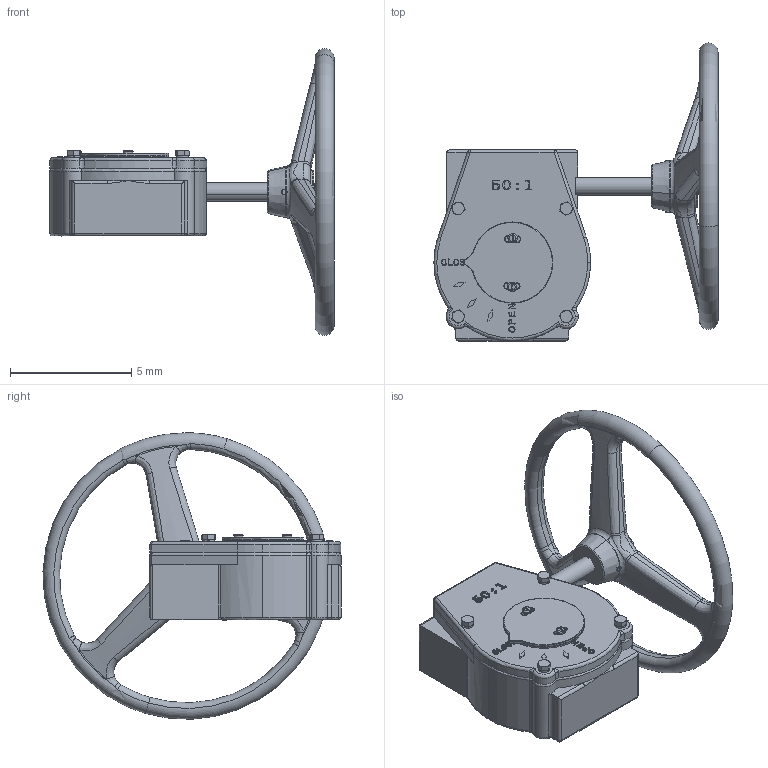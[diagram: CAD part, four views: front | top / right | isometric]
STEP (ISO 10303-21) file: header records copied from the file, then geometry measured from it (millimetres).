
FILE_DESCRIPTION(('Open CASCADE Model'),'2;1');
FILE_NAME('Open CASCADE Shape Model','2022-09-14T09:40:06',('Author'),( 'Open CASCADE'),'Open CASCADE STEP processor 7.3','Open CASCADE 7.3' ,'Unknown');
FILE_SCHEMA(('AUTOMOTIVE_DESIGN { 1 0 10303 214 1 1 1 1 }'));
Length unit declared in the file: millimetre
Products named in the file (17): Open CASCADE STEP translator 7.3 1; Open CASCADE STEP translator 7.3 1.1; Open CASCADE STEP translator 7.3 1.2; Open CASCADE STEP translator 7.3 1.3; Open CASCADE STEP translator 7.3 1.4; Open CASCADE STEP translator 7.3 1.5; Open CASCADE STEP translator 7.3 1.6; Open CASCADE STEP translator 7.3 1.7; Open CASCADE STEP translator 7.3 1.8; Open CASCADE STEP translator 7.3 1.9; Open CASCADE STEP translator 7.3 1.10; Open CASCADE STEP translator 7.3 1.11; Open CASCADE STEP translator 7.3 1.12; Open CASCADE STEP translator 7.3 1.13; Open CASCADE STEP translator 7.3 1.14; Open CASCADE STEP translator 7.3 1.15; Open CASCADE STEP translator 7.3 1.16
Assembly tree (16 placements, depth 2):
  Open CASCADE STEP translator 7.3 1
    Open CASCADE STEP translator 7.3 1.1
    Open CASCADE STEP translator 7.3 1.2
    Open CASCADE STEP translator 7.3 1.3
    Open CASCADE STEP translator 7.3 1.4
    Open CASCADE STEP translator 7.3 1.5
    Open CASCADE STEP translator 7.3 1.6
    Open CASCADE STEP translator 7.3 1.7
    Open CASCADE STEP translator 7.3 1.8
    Open CASCADE STEP translator 7.3 1.9
    Open CASCADE STEP translator 7.3 1.10
    Open CASCADE STEP translator 7.3 1.11
    Open CASCADE STEP translator 7.3 1.12
    Open CASCADE STEP translator 7.3 1.13
    Open CASCADE STEP translator 7.3 1.14
    Open CASCADE STEP translator 7.3 1.15
    Open CASCADE STEP translator 7.3 1.16
Bounding box: 11.72 x 12.29 x 11.82 mm (x, y, z)
Volume: 172.1 mm3; surface area: 497.9 mm2
Topology: 16 solids, 16 shells, 769 faces, 1927 edges, 1181 vertices
Faces by surface type: plane 257, bspline 196, cylinder 165, torus 88, cone 56, sphere 7
Entity records: 78241 total; most frequent: CARTESIAN_POINT 43416, DIRECTION 5439, ORIENTED_EDGE 3762, PCURVE 3762, DEFINITIONAL_REPRESENTATION 3762, LINE 2966, VECTOR 2966, EDGE_CURVE 1881
